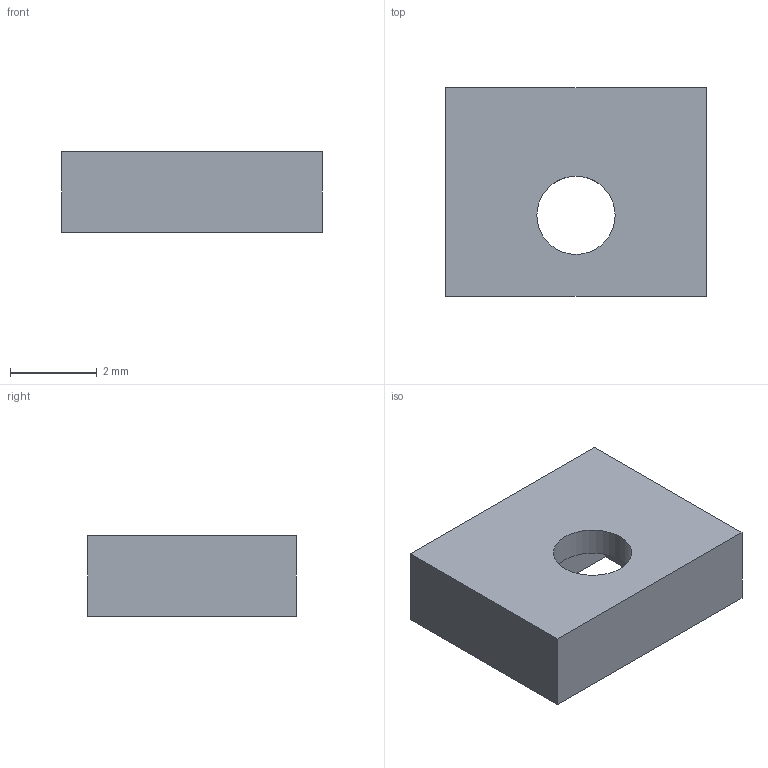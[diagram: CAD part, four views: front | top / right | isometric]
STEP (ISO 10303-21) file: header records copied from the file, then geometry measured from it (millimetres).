
FILE_DESCRIPTION(('Open CASCADE Model'),'2;1');
FILE_NAME('Open CASCADE Shape Model','2026-09-08T12:50:47',('Author'),( 'Open CASCADE'),'Open CASCADE STEP processor 7.7','Open CASCADE 7.7' ,'Unknown');
FILE_SCHEMA(('AUTOMOTIVE_DESIGN { 1 0 10303 214 1 1 1 1 }'));
Length unit declared in the file: millimetre
Products named in the file (1): Open CASCADE STEP translator 7.7 3
Bounding box: 6 x 4.8 x 1.85 mm (x, y, z)
Volume: 37.4 mm3; surface area: 112.8 mm2
Topology: 1 solids, 1 shells, 12 faces, 27 edges, 18 vertices
Faces by surface type: plane 11, cylinder 1
Full cylindrical faces by diameter (mm): 1.8 x1
Entity records: 690 total; most frequent: CARTESIAN_POINT 120, DIRECTION 101, LINE 69, VECTOR 69, ORIENTED_EDGE 54, PCURVE 54, DEFINITIONAL_REPRESENTATION 54, EDGE_CURVE 27
